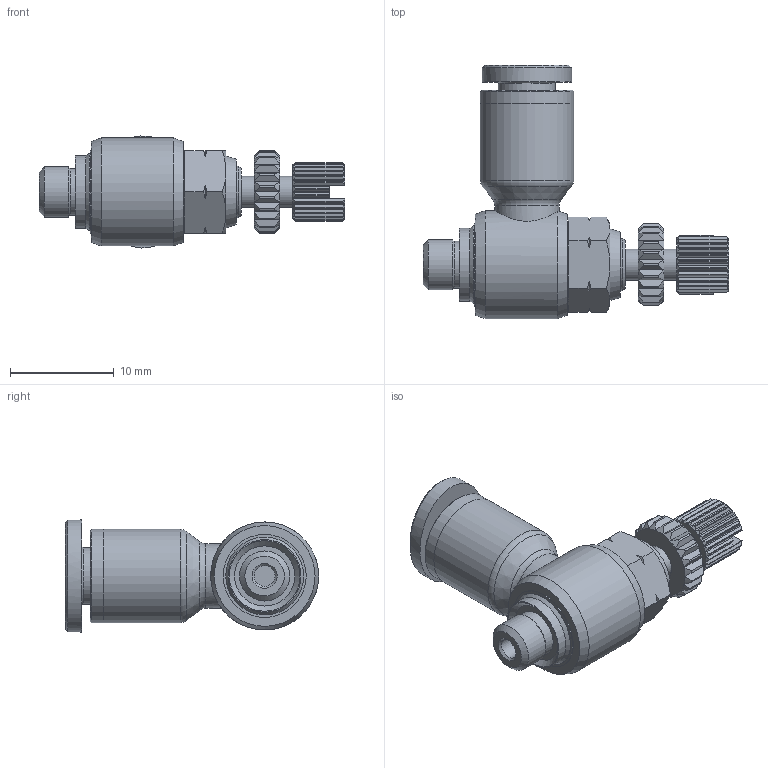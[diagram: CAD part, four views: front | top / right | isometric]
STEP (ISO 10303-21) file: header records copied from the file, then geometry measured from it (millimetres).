
FILE_DESCRIPTION((''),'2;1');
FILE_NAME('C:\Users\user0117\Desktop\김진일\홈페이지\5_32\Internet\G-FITTING INCH (STEP)\GNSE 5_32-U10U.stp','2020-02-28T16:25:06',('user0117'),(''),'Autodesk Inventor 2013','Autodesk Inventor 2013','');
FILE_SCHEMA(('AUTOMOTIVE_DESIGN { 1 0 10303 214 1 1 1 1 }'));
Length unit declared in the file: millimetre
Products named in the file (10): GNSE 5_32-U10U; NSE BODY U10(BRASS); GNSE BODY 04M5(PLASTIC); G-COLLAR 5-32L; COLLAR G04L; SLEEVE G04; N-LINER-M5(BRASS); LOCK NUT-M5(ZnDc); NEEDLE-M5(BRASS); HANDLE-M5(BRASS)
Assembly tree (9 placements, depth 3):
  GNSE 5_32-U10U
    NSE BODY U10(BRASS)
    GNSE BODY 04M5(PLASTIC)
    G-COLLAR 5-32L
      COLLAR G04L
      SLEEVE G04
    N-LINER-M5(BRASS)
    LOCK NUT-M5(ZnDc)
    NEEDLE-M5(BRASS)
    HANDLE-M5(BRASS)
Bounding box: 29.45 x 24.4 x 10.79 mm (x, y, z)
Volume: 1800.7 mm3; surface area: 2878.5 mm2
Topology: 8 solids, 8 shells, 531 faces, 1303 edges, 811 vertices
Faces by surface type: plane 238, cone 132, cylinder 100, bspline 59, torus 2
Full cylindrical faces by diameter (mm): 2 x1, 2.3 x1, 3 x4, 4.2 x3, 4.5 x1, 4.826 x1, 5 x2, 5.5 x1, 6.2 x1, 7 x1, 7.5 x1, 8 x2, 9 x2, 10.4 x1
Entity records: 16332 total; most frequent: CARTESIAN_POINT 4843, ORIENTED_EDGE 2504, DIRECTION 2067, EDGE_CURVE 1252, VERTEX_POINT 803, AXIS2_PLACEMENT_3D 779, EDGE_LOOP 609, FACE_OUTER_BOUND 531
